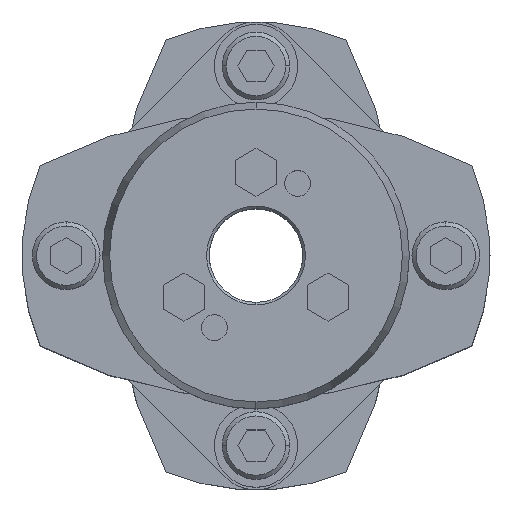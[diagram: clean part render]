
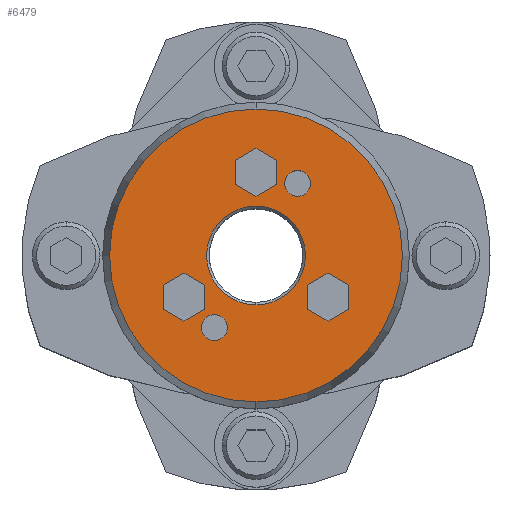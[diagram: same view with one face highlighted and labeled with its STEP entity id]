
A CAD part, top view. The second image highlights one B-rep face of the part: STEP entity #6479.
In plain terms, the highlighted planar face has unit normal (0, 0, 1).
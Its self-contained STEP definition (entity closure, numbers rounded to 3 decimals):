
#1677=CARTESIAN_POINT('',(0.,9.5,52.0));
#1678=VERTEX_POINT('',#1677);
#1694=CARTESIAN_POINT('',(0.,-9.5,52.0));
#1695=VERTEX_POINT('',#1694);
#1702=CARTESIAN_POINT('',(0.,0.,52.0));
#1703=DIRECTION('',(0.0,0.0,1.0));
#1704=DIRECTION('',(0.0,1.0,0.0));
#1705=AXIS2_PLACEMENT_3D('',#1702,#1703,#1704);
#1706=CIRCLE('',#1705,9.5);
#1707=EDGE_CURVE('',#1695,#1678,#1706,.T.);
#1865=CARTESIAN_POINT('',(0.,-28.16,52.0));
#1866=VERTEX_POINT('',#1865);
#1873=CARTESIAN_POINT('',(0.,28.16,52.0));
#1874=VERTEX_POINT('',#1873);
#1875=CARTESIAN_POINT('',(0.,0.,52.0));
#1876=DIRECTION('',(0.0,0.0,-1.0));
#1877=DIRECTION('',(0.0,-1.0,0.0));
#1878=AXIS2_PLACEMENT_3D('',#1875,#1876,#1877);
#1879=CIRCLE('',#1878,28.16);
#1880=EDGE_CURVE('',#1866,#1874,#1879,.T.);
#2123=CARTESIAN_POINT('',(8.,16.356,52.0));
#2124=VERTEX_POINT('',#2123);
#2140=CARTESIAN_POINT('',(8.,11.356,52.0));
#2141=VERTEX_POINT('',#2140);
#2148=CARTESIAN_POINT('',(8.,13.856,52.0));
#2149=DIRECTION('',(0.0,0.0,-1.0));
#2150=DIRECTION('',(0.0,1.0,0.0));
#2151=AXIS2_PLACEMENT_3D('',#2148,#2149,#2150);
#2152=CIRCLE('',#2151,2.5);
#2153=EDGE_CURVE('',#2124,#2141,#2152,.T.);
#2165=CARTESIAN_POINT('',(-8.,-11.356,52.0));
#2166=VERTEX_POINT('',#2165);
#2182=CARTESIAN_POINT('',(-8.,-16.356,52.0));
#2183=VERTEX_POINT('',#2182);
#2190=CARTESIAN_POINT('',(-8.,-13.856,52.0));
#2191=DIRECTION('',(0.0,0.0,-1.0));
#2192=DIRECTION('',(0.0,1.0,0.0));
#2193=AXIS2_PLACEMENT_3D('',#2190,#2191,#2192);
#2194=CIRCLE('',#2193,2.5);
#2195=EDGE_CURVE('',#2166,#2183,#2194,.T.);
#4995=CARTESIAN_POINT('',(13.856,-3.381,52.0));
#4996=VERTEX_POINT('',#4995);
#5003=CARTESIAN_POINT('',(9.856,-5.691,52.0));
#5004=VERTEX_POINT('',#5003);
#5005=CARTESIAN_POINT('',(9.856,-5.691,52.0));
#5006=DIRECTION('',(0.866,0.5,0.0));
#5007=VECTOR('',#5006,4.619);
#5008=LINE('',#5005,#5007);
#5009=EDGE_CURVE('',#5004,#4996,#5008,.T.);
#5033=CARTESIAN_POINT('',(17.856,-5.691,52.0));
#5034=VERTEX_POINT('',#5033);
#5041=CARTESIAN_POINT('',(13.856,-3.381,52.0));
#5042=DIRECTION('',(0.866,-0.5,0.0));
#5043=VECTOR('',#5042,4.619);
#5044=LINE('',#5041,#5043);
#5045=EDGE_CURVE('',#4996,#5034,#5044,.T.);
#5064=CARTESIAN_POINT('',(17.856,-10.309,52.0));
#5065=VERTEX_POINT('',#5064);
#5072=CARTESIAN_POINT('',(17.856,-5.691,52.0));
#5073=DIRECTION('',(0.0,-1.0,0.0));
#5074=VECTOR('',#5073,4.619);
#5075=LINE('',#5072,#5074);
#5076=EDGE_CURVE('',#5034,#5065,#5075,.T.);
#5095=CARTESIAN_POINT('',(13.856,-12.619,52.0));
#5096=VERTEX_POINT('',#5095);
#5103=CARTESIAN_POINT('',(17.856,-10.309,52.0));
#5104=DIRECTION('',(-0.866,-0.5,0.0));
#5105=VECTOR('',#5104,4.619);
#5106=LINE('',#5103,#5105);
#5107=EDGE_CURVE('',#5065,#5096,#5106,.T.);
#5126=CARTESIAN_POINT('',(9.856,-10.309,52.0));
#5127=VERTEX_POINT('',#5126);
#5134=CARTESIAN_POINT('',(13.856,-12.619,52.0));
#5135=DIRECTION('',(-0.866,0.5,0.0));
#5136=VECTOR('',#5135,4.619);
#5137=LINE('',#5134,#5136);
#5138=EDGE_CURVE('',#5096,#5127,#5137,.T.);
#5156=CARTESIAN_POINT('',(9.856,-10.309,52.0));
#5157=DIRECTION('',(0.0,1.0,0.0));
#5158=VECTOR('',#5157,4.619);
#5159=LINE('',#5156,#5158);
#5160=EDGE_CURVE('',#5127,#5004,#5159,.T.);
#5195=CARTESIAN_POINT('',(0.,20.619,52.0));
#5196=VERTEX_POINT('',#5195);
#5203=CARTESIAN_POINT('',(-4.,18.309,52.0));
#5204=VERTEX_POINT('',#5203);
#5205=CARTESIAN_POINT('',(-4.,18.309,52.0));
#5206=DIRECTION('',(0.866,0.5,0.0));
#5207=VECTOR('',#5206,4.619);
#5208=LINE('',#5205,#5207);
#5209=EDGE_CURVE('',#5204,#5196,#5208,.T.);
#5233=CARTESIAN_POINT('',(4.,18.309,52.0));
#5234=VERTEX_POINT('',#5233);
#5241=CARTESIAN_POINT('',(0.,20.619,52.0));
#5242=DIRECTION('',(0.866,-0.5,0.0));
#5243=VECTOR('',#5242,4.619);
#5244=LINE('',#5241,#5243);
#5245=EDGE_CURVE('',#5196,#5234,#5244,.T.);
#5264=CARTESIAN_POINT('',(4.,13.691,52.0));
#5265=VERTEX_POINT('',#5264);
#5272=CARTESIAN_POINT('',(4.,18.309,52.0));
#5273=DIRECTION('',(0.0,-1.0,0.0));
#5274=VECTOR('',#5273,4.619);
#5275=LINE('',#5272,#5274);
#5276=EDGE_CURVE('',#5234,#5265,#5275,.T.);
#5295=CARTESIAN_POINT('',(0.,11.381,52.0));
#5296=VERTEX_POINT('',#5295);
#5303=CARTESIAN_POINT('',(4.,13.691,52.0));
#5304=DIRECTION('',(-0.866,-0.5,0.0));
#5305=VECTOR('',#5304,4.619);
#5306=LINE('',#5303,#5305);
#5307=EDGE_CURVE('',#5265,#5296,#5306,.T.);
#5326=CARTESIAN_POINT('',(-4.,13.691,52.0));
#5327=VERTEX_POINT('',#5326);
#5334=CARTESIAN_POINT('',(0.,11.381,52.0));
#5335=DIRECTION('',(-0.866,0.5,0.0));
#5336=VECTOR('',#5335,4.619);
#5337=LINE('',#5334,#5336);
#5338=EDGE_CURVE('',#5296,#5327,#5337,.T.);
#5356=CARTESIAN_POINT('',(-4.,13.691,52.0));
#5357=DIRECTION('',(0.0,1.0,0.0));
#5358=VECTOR('',#5357,4.619);
#5359=LINE('',#5356,#5358);
#5360=EDGE_CURVE('',#5327,#5204,#5359,.T.);
#5395=CARTESIAN_POINT('',(-13.856,-3.381,52.0));
#5396=VERTEX_POINT('',#5395);
#5403=CARTESIAN_POINT('',(-17.856,-5.691,52.0));
#5404=VERTEX_POINT('',#5403);
#5405=CARTESIAN_POINT('',(-17.856,-5.691,52.0));
#5406=DIRECTION('',(0.866,0.5,0.0));
#5407=VECTOR('',#5406,4.619);
#5408=LINE('',#5405,#5407);
#5409=EDGE_CURVE('',#5404,#5396,#5408,.T.);
#5433=CARTESIAN_POINT('',(-9.856,-5.691,52.0));
#5434=VERTEX_POINT('',#5433);
#5441=CARTESIAN_POINT('',(-13.856,-3.381,52.0));
#5442=DIRECTION('',(0.866,-0.5,0.0));
#5443=VECTOR('',#5442,4.619);
#5444=LINE('',#5441,#5443);
#5445=EDGE_CURVE('',#5396,#5434,#5444,.T.);
#5464=CARTESIAN_POINT('',(-9.856,-10.309,52.0));
#5465=VERTEX_POINT('',#5464);
#5472=CARTESIAN_POINT('',(-9.856,-5.691,52.0));
#5473=DIRECTION('',(0.0,-1.0,0.0));
#5474=VECTOR('',#5473,4.619);
#5475=LINE('',#5472,#5474);
#5476=EDGE_CURVE('',#5434,#5465,#5475,.T.);
#5495=CARTESIAN_POINT('',(-13.856,-12.619,52.0));
#5496=VERTEX_POINT('',#5495);
#5503=CARTESIAN_POINT('',(-9.856,-10.309,52.0));
#5504=DIRECTION('',(-0.866,-0.5,0.0));
#5505=VECTOR('',#5504,4.619);
#5506=LINE('',#5503,#5505);
#5507=EDGE_CURVE('',#5465,#5496,#5506,.T.);
#5526=CARTESIAN_POINT('',(-17.856,-10.309,52.0));
#5527=VERTEX_POINT('',#5526);
#5534=CARTESIAN_POINT('',(-13.856,-12.619,52.0));
#5535=DIRECTION('',(-0.866,0.5,0.0));
#5536=VECTOR('',#5535,4.619);
#5537=LINE('',#5534,#5536);
#5538=EDGE_CURVE('',#5496,#5527,#5537,.T.);
#5556=CARTESIAN_POINT('',(-17.856,-10.309,52.0));
#5557=DIRECTION('',(0.0,1.0,0.0));
#5558=VECTOR('',#5557,4.619);
#5559=LINE('',#5556,#5558);
#5560=EDGE_CURVE('',#5527,#5404,#5559,.T.);
#5586=CARTESIAN_POINT('',(-8.,-13.856,52.0));
#5587=DIRECTION('',(0.0,0.0,-1.0));
#5588=DIRECTION('',(0.0,1.0,0.0));
#5589=AXIS2_PLACEMENT_3D('',#5586,#5587,#5588);
#5590=CIRCLE('',#5589,2.5);
#5591=EDGE_CURVE('',#2183,#2166,#5590,.T.);
#5620=CARTESIAN_POINT('',(8.,13.856,52.0));
#5621=DIRECTION('',(0.0,0.0,-1.0));
#5622=DIRECTION('',(0.0,1.0,0.0));
#5623=AXIS2_PLACEMENT_3D('',#5620,#5621,#5622);
#5624=CIRCLE('',#5623,2.5);
#5625=EDGE_CURVE('',#2141,#2124,#5624,.T.);
#6418=CARTESIAN_POINT('',(0.,0.,52.0));
#6419=DIRECTION('',(0.0,0.0,-1.0));
#6420=DIRECTION('',(0.0,-1.0,0.0));
#6421=AXIS2_PLACEMENT_3D('',#6418,#6419,#6420);
#6422=CIRCLE('',#6421,28.16);
#6423=EDGE_CURVE('',#1874,#1866,#6422,.T.);
#6428=CARTESIAN_POINT('',(0.,2.682,52.0));
#6429=DIRECTION('',(0.0,0.0,1.0));
#6430=DIRECTION('',(0.0,1.0,0.0));
#6431=AXIS2_PLACEMENT_3D('',#6428,#6429,#6430);
#6432=PLANE('',#6431);
#6433=ORIENTED_EDGE('',*,*,#6423,.F.);
#6434=ORIENTED_EDGE('',*,*,#1880,.F.);
#6435=EDGE_LOOP('',(#6433,#6434));
#6436=FACE_OUTER_BOUND('',#6435,.T.);
#6437=ORIENTED_EDGE('',*,*,#5009,.T.);
#6438=ORIENTED_EDGE('',*,*,#5045,.T.);
#6439=ORIENTED_EDGE('',*,*,#5076,.T.);
#6440=ORIENTED_EDGE('',*,*,#5107,.T.);
#6441=ORIENTED_EDGE('',*,*,#5138,.T.);
#6442=ORIENTED_EDGE('',*,*,#5160,.T.);
#6443=EDGE_LOOP('',(#6437,#6438,#6439,#6440,#6441,#6442));
#6444=FACE_BOUND('',#6443,.T.);
#6445=ORIENTED_EDGE('',*,*,#5209,.T.);
#6446=ORIENTED_EDGE('',*,*,#5245,.T.);
#6447=ORIENTED_EDGE('',*,*,#5276,.T.);
#6448=ORIENTED_EDGE('',*,*,#5307,.T.);
#6449=ORIENTED_EDGE('',*,*,#5338,.T.);
#6450=ORIENTED_EDGE('',*,*,#5360,.T.);
#6451=EDGE_LOOP('',(#6445,#6446,#6447,#6448,#6449,#6450));
#6452=FACE_BOUND('',#6451,.T.);
#6453=ORIENTED_EDGE('',*,*,#5409,.T.);
#6454=ORIENTED_EDGE('',*,*,#5445,.T.);
#6455=ORIENTED_EDGE('',*,*,#5476,.T.);
#6456=ORIENTED_EDGE('',*,*,#5507,.T.);
#6457=ORIENTED_EDGE('',*,*,#5538,.T.);
#6458=ORIENTED_EDGE('',*,*,#5560,.T.);
#6459=EDGE_LOOP('',(#6453,#6454,#6455,#6456,#6457,#6458));
#6460=FACE_BOUND('',#6459,.T.);
#6461=ORIENTED_EDGE('',*,*,#2195,.T.);
#6462=ORIENTED_EDGE('',*,*,#5591,.T.);
#6463=EDGE_LOOP('',(#6461,#6462));
#6464=FACE_BOUND('',#6463,.T.);
#6465=ORIENTED_EDGE('',*,*,#2153,.T.);
#6466=ORIENTED_EDGE('',*,*,#5625,.T.);
#6467=EDGE_LOOP('',(#6465,#6466));
#6468=FACE_BOUND('',#6467,.T.);
#6469=ORIENTED_EDGE('',*,*,#1707,.F.);
#6470=CARTESIAN_POINT('',(0.,0.,52.0));
#6471=DIRECTION('',(0.0,0.0,1.0));
#6472=DIRECTION('',(0.0,1.0,0.0));
#6473=AXIS2_PLACEMENT_3D('',#6470,#6471,#6472);
#6474=CIRCLE('',#6473,9.5);
#6475=EDGE_CURVE('',#1678,#1695,#6474,.T.);
#6476=ORIENTED_EDGE('',*,*,#6475,.F.);
#6477=EDGE_LOOP('',(#6469,#6476));
#6478=FACE_BOUND('',#6477,.T.);
#6479=ADVANCED_FACE('',(#6436,#6444,#6452,#6460,#6464,#6468,#6478),#6432,.T.);
